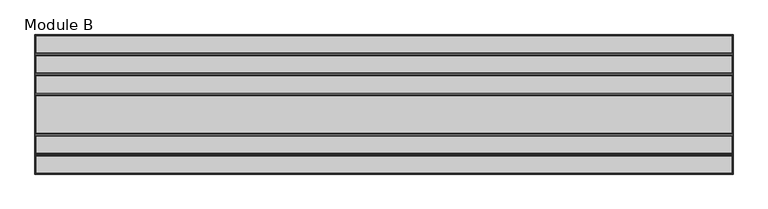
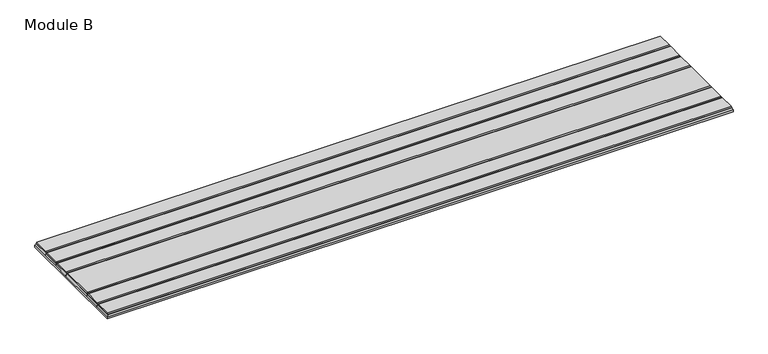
"""IFC4 building model written with IfcOpenShell, lengths in millimetres: proxy geometry, FilzFelt_Gap : Module B."""

import ifcopenshell
import ifcopenshell.guid

model = None  # the IFC model being written
_history = None  # IfcOwnerHistory: only IFC2X3 demands one
_inside = {}  # id of a spatial element -> (the spatial element, [elements in it])
_under = {}  # id of a project, library or spatial element -> (it, [spatial elements below it])
_declared = {}  # id of a project -> (the project, [libraries it declares])
_typed = {}  # id of a type object -> (the type object, [elements of that type])
_made_of = {}  # id of a material, layer set ... -> (it, [elements and type objects made of it])


def new_model(schema):
    """Start an empty IFC model of exactly this schema.

    Asked for "IFC4X3", IfcOpenShell would pick the latest addendum, in which some entities
    have other attributes; the version numbers below select the first issue.
    IFC2X3 requires an IfcOwnerHistory on every rooted entity: one is made here for all.
    """
    global model, _history
    if schema == "IFC4X3":
        model = ifcopenshell.file(schema_version=(4, 3, 0, 0))
    else:
        model = ifcopenshell.file(schema=schema)
    _inside.clear()
    _under.clear()
    _declared.clear()
    _typed.clear()
    _made_of.clear()
    _history = None
    if model.schema == "IFC2X3":
        org = make("IfcOrganization", Name="unknown")
        user = make(
            "IfcPersonAndOrganization",
            ThePerson=make("IfcPerson", FamilyName="unknown"),
            TheOrganization=org,
        )
        app = make(
            "IfcApplication",
            ApplicationDeveloper=org,
            Version="unknown",
            ApplicationFullName="unknown",
            ApplicationIdentifier="unknown",
        )
        _history = make(
            "IfcOwnerHistory",
            OwningUser=user,
            OwningApplication=app,
            ChangeAction="ADDED",
            CreationDate=0,
        )
    return model


def make(cls, **values):
    """One entity of the class cls with the attributes given. An attribute that is None is left unset."""
    return model.create_entity(
        cls, **{name: value for name, value in values.items() if value is not None}
    )


def rooted(cls, **values):
    """An entity with a GlobalId (a new one), such as an element, a storey or a relation."""
    return make(cls, GlobalId=ifcopenshell.guid.new(), OwnerHistory=_history, **values)


def si_unit(unit_type, name, prefix=None):
    """IfcSIUnit, for example si_unit("LENGTHUNIT", "METRE", prefix="MILLI")."""
    return make("IfcSIUnit", UnitType=unit_type, Prefix=prefix, Name=name)


def assignment(units):
    """IfcUnitAssignment: the units of a project."""
    return None if units is None else make("IfcUnitAssignment", Units=units)


def point(xyz):
    """IfcCartesianPoint."""
    return None if xyz is None else make("IfcCartesianPoint", Coordinates=xyz)


def direction(xyz):
    """IfcDirection."""
    return None if xyz is None else make("IfcDirection", DirectionRatios=xyz)


def frame(location, z_axis=None, x_axis=None):
    """IfcAxis2Placement3D, a coordinate frame: its origin and axes. An axis left out is left unset."""
    return make(
        "IfcAxis2Placement3D",
        Location=point(location),
        Axis=direction(z_axis),
        RefDirection=direction(x_axis),
    )


def origin():
    """The frame at (0, 0, 0) with its axes left unset."""
    return frame((0.0, 0.0, 0.0))


def place(relative_to, where):
    """IfcLocalPlacement: puts the frame where relative to a parent placement (None: the world)."""
    return make(
        "IfcLocalPlacement", PlacementRelTo=relative_to, RelativePlacement=where
    )


def context(
    kind, dimensions, precision=None, world=None, true_north=None, identifier=None
):
    """IfcGeometricRepresentationContext, for example the 3D "Model" context."""
    return make(
        "IfcGeometricRepresentationContext",
        ContextIdentifier=identifier,
        ContextType=kind,
        CoordinateSpaceDimension=dimensions,
        Precision=precision,
        WorldCoordinateSystem=world,
        TrueNorth=true_north,
    )


def project(units=None, contexts=None):
    """IfcProject with its units and contexts."""
    return rooted(
        "IfcProject",
        Name="project",
        RepresentationContexts=contexts,
        UnitsInContext=assignment(units),
    )


def spatial(cls, under=None, at=None, **own):
    """A site, building, storey or space (cls), placed at a placement, below another one or the project."""
    s = rooted(cls, ObjectPlacement=at, **own)
    if under is not None:
        _under.setdefault(under.id(), (under, []))[1].append(s)
    return s


def faces_of(points, faces, orient=None, outer=None):
    """IfcFace entities. A face is a list of loops; a loop is a list of indices into points, from 0.

    orient and outer hold one flag for each loop. By default every Orientation is true, the
    first loop of a face is its IfcFaceOuterBound and the others are IfcFaceBound.
    """
    made = []
    for i, loops in enumerate(faces):
        bounds = []
        for j, loop in enumerate(loops):
            is_outer = j == 0 if outer is None else outer[i][j]
            bounds.append(
                make(
                    "IfcFaceOuterBound" if is_outer else "IfcFaceBound",
                    Bound=make("IfcPolyLoop", Polygon=[points[k] for k in loop]),
                    Orientation=True if orient is None else orient[i][j],
                )
            )
        made.append(make("IfcFace", Bounds=bounds))
    return made


def faceted_brep(points, faces, orient=None, outer=None, voids=None):
    """IfcFacetedBrep: a solid bounded by flat faces; with voids (closed shells), ...WithVoids."""
    shared = [point(p) for p in points]
    hull = make("IfcClosedShell", CfsFaces=faces_of(shared, faces, orient, outer))
    if voids is None:
        return make("IfcFacetedBrep", Outer=hull)
    return make(
        "IfcFacetedBrepWithVoids",
        Outer=hull,
        Voids=[
            make(cls, CfsFaces=faces_of(shared, fs, o, b)) for cls, fs, o, b in voids
        ],
    )


def shape(context_of_items, identifier, shape_type, items):
    """IfcShapeRepresentation: the items that make up one representation, for example the "Body"."""
    return make(
        "IfcShapeRepresentation",
        ContextOfItems=context_of_items,
        RepresentationIdentifier=identifier,
        RepresentationType=shape_type,
        Items=items,
    )


def source(mapping_origin, context_of_items, identifier, shape_type, items):
    """IfcRepresentationMap: a shape defined once, which mapped items show again and again."""
    return make(
        "IfcRepresentationMap",
        MappingOrigin=mapping_origin,
        MappedRepresentation=shape(context_of_items, identifier, shape_type, items),
    )


def transform(
    local_origin,
    x_axis=None,
    y_axis=None,
    z_axis=None,
    scale=None,
    scale2=None,
    scale3=None,
    uniform=True,
):
    """IfcCartesianTransformationOperator3D, or its non-uniform kind. x_axis, y_axis, z_axis: its Axis1, 2, 3."""
    if uniform:
        return make(
            "IfcCartesianTransformationOperator3D",
            Axis1=direction(x_axis),
            Axis2=direction(y_axis),
            LocalOrigin=point(local_origin),
            Scale=scale,
            Axis3=direction(z_axis),
        )
    return make(
        "IfcCartesianTransformationOperator3DnonUniform",
        Axis1=direction(x_axis),
        Axis2=direction(y_axis),
        LocalOrigin=point(local_origin),
        Scale=scale,
        Axis3=direction(z_axis),
        Scale2=scale2,
        Scale3=scale3,
    )


def mapped(mapping_source, mapping_target):
    """IfcMappedItem: shows the shape of a source again, moved by a transform."""
    return make(
        "IfcMappedItem", MappingSource=mapping_source, MappingTarget=mapping_target
    )


def made_of(thing, what):
    """Note that an element or type object is made of a material, layer set ...; save() writes the relation."""
    if what is not None:
        _made_of.setdefault(what.id(), (what, []))[1].append(thing)
    return thing


def element(
    cls,
    number,
    at=None,
    inside=None,
    cuts=None,
    type_object=None,
    material=None,
    context=None,
    identifier="Body",
    shape_type=None,
    held_by="IfcProductDefinitionShape",
    body=None,
    shapes=None,
    **own,
):
    """One element of the class cls, such as IfcWall. Its Tag is "e" and its number.

    at: its placement. inside: the storey or other place that contains it. cuts: it is an
    opening in that element (IfcRelVoidsElement). A single representation is given by context,
    identifier, shape_type and body (its items); several are given by shapes. held_by: the class
    of the entity that holds the representations. save() writes the other relations.
    """
    e = rooted(cls, Tag="e%d" % number, ObjectPlacement=at, **own)
    if body is not None:
        shapes = [shape(context, identifier, shape_type, body)]
    if shapes is not None:
        e.Representation = make(held_by, Representations=shapes)
    if inside is not None:
        _inside.setdefault(inside.id(), (inside, []))[1].append(e)
    if cuts is not None:
        rooted(
            "IfcRelVoidsElement", RelatingBuildingElement=cuts, RelatedOpeningElement=e
        )
    if type_object is not None:
        _typed.setdefault(type_object.id(), (type_object, []))[1].append(e)
    return made_of(e, material)


def aggregate(whole, parts):
    """IfcRelAggregates: a whole, such as a stair, and the parts it consists of."""
    return rooted("IfcRelAggregates", RelatingObject=whole, RelatedObjects=parts)


def save(model, path):
    """Write the relations noted so far, then the file.

    IfcRelAggregates (storeys below a building ...), IfcRelContainedInSpatialStructure (elements
    in a storey), IfcRelDefinesByType, IfcRelAssociatesMaterial and IfcRelDeclares: one each for
    every whole, place, type object, material and project.
    """
    for whole, parts in _under.values():
        aggregate(whole, parts)
    for where, things in _inside.values():
        rooted(
            "IfcRelContainedInSpatialStructure",
            RelatedElements=things,
            RelatingStructure=where,
        )
    for kind, things in _typed.values():
        rooted("IfcRelDefinesByType", RelatedObjects=things, RelatingType=kind)
    for what, things in _made_of.values():
        rooted("IfcRelAssociatesMaterial", RelatedObjects=things, RelatingMaterial=what)
    for by, libraries in _declared.values():
        rooted("IfcRelDeclares", RelatingContext=by, RelatedDefinitions=libraries)
    model.write(path)


def module_b_1bbdab97(model_context):
    return source(origin(), model_context, "Body", "Brep", [
        faceted_brep([(-760.095, -150.495, 9.525), (760.095, -150.495, 9.525), (760.095, -110.7621429, 9.525), (-760.095, -110.7621429, 9.525), (760.095, 150.495, 9.525), (-760.095, 150.495, 9.525), (-760.095, 110.7621429, 9.525), (760.095, 110.7621429, 9.525), (760.095, 67.2192857, 9.525), (760.095, 106.9521429, 9.525), (-760.095, 106.9521429, 9.525), (-760.095, 67.2192857, 9.525), (760.095, 23.6764286, 9.525), (760.095, 63.4092857, 9.525), (-760.095, 63.4092857, 9.525), (-760.095, 23.6764286, 9.525), (760.095, -63.4092857, 9.525), (760.095, 19.8664286, 9.525), (-760.095, 19.8664286, 9.525), (-760.095, -63.4092857, 9.525), (760.095, -106.9521429, 9.525), (760.095, -67.2192857, 9.525), (-760.095, -67.2192857, 9.525), (-760.095, -106.9521429, 9.525), (762.0, 152.4, 0.0), (762.0, -152.4, 0.0), (-762.0, -152.4, 0.0), (-762.0, 152.4, 0.0), (-762.0, 152.4, 4.7625), (762.0, 152.4, 4.7625), (-762.0, -152.4, 4.7625), (-762.0, -108.8571429, 4.7625), (-762.0, -65.3142857, 4.7625), (-762.0, 21.7714286, 4.7625), (-762.0, 65.3142857, 4.7625), (-762.0, 108.8571429, 4.7625), (762.0, -152.4, 4.7625), (762.0, 108.8571429, 4.7625), (762.0, 65.3142857, 4.7625), (762.0, 21.7714286, 4.7625), (762.0, -65.3142857, 4.7625), (762.0, -108.8571429, 4.7625)], [[[0, 1, 2, 3]], [[4, 5, 6, 7]], [[8, 9, 10, 11]], [[12, 13, 14, 15]], [[16, 17, 18, 19]], [[20, 21, 22, 23]], [[24, 25, 26, 27]], [[24, 27, 28, 29]], [[27, 26, 30, 31, 32, 33, 34, 35, 28]], [[26, 25, 36, 30]], [[25, 24, 29, 37, 38, 39, 40, 41, 36]], [[9, 8, 38, 37]], [[13, 12, 39, 38]], [[17, 16, 40, 39]], [[21, 20, 41, 40]], [[1, 36, 41, 2]], [[29, 4, 7, 37]], [[36, 1, 0, 30]], [[11, 10, 35, 34]], [[15, 14, 34, 33]], [[19, 18, 33, 32]], [[23, 22, 32, 31]], [[30, 0, 3, 31]], [[5, 28, 35, 6]], [[28, 5, 4, 29]], [[35, 37, 7, 6]], [[37, 35, 10, 9]], [[34, 38, 8, 11]], [[38, 34, 14, 13]], [[33, 39, 12, 15]], [[39, 33, 18, 17]], [[32, 40, 16, 19]], [[40, 32, 22, 21]], [[31, 41, 20, 23]], [[41, 31, 3, 2]]]),
        faceted_brep([(760.095, -150.495, 9.525), (-760.095, -150.495, 9.525), (-760.095, -110.7621429, 9.525), (760.095, -110.7621429, 9.525), (-758.825, -149.225, 12.7), (758.825, -149.225, 12.7), (758.825, -112.0321429, 12.7), (-758.825, -112.0321429, 12.7)], [[[0, 1, 2, 3]], [[4, 5, 6, 7]], [[5, 0, 3, 6]], [[0, 5, 4, 1]], [[1, 4, 7, 2]], [[3, 2, 7, 6]]]),
        faceted_brep([(-760.095, 150.495, 9.525), (760.095, 150.495, 9.525), (760.095, 110.7621429, 9.525), (-760.095, 110.7621429, 9.525), (758.825, 149.225, 12.7), (-758.825, 149.225, 12.7), (-758.825, 112.0321429, 12.7), (758.825, 112.0321429, 12.7)], [[[0, 1, 2, 3]], [[4, 5, 6, 7]], [[1, 4, 7, 2]], [[5, 0, 3, 6]], [[0, 5, 4, 1]], [[3, 2, 7, 6]]]),
        faceted_brep([(760.095, 106.9521429, 9.525), (760.095, 67.2192857, 9.525), (-760.095, 67.2192857, 9.525), (-760.095, 106.9521429, 9.525), (758.825, 68.4892857, 12.7), (758.825, 105.6821429, 12.7), (-758.825, 105.6821429, 12.7), (-758.825, 68.4892857, 12.7)], [[[0, 1, 2, 3]], [[4, 5, 6, 7]], [[1, 0, 5, 4]], [[3, 2, 7, 6]], [[0, 3, 6, 5]], [[2, 1, 4, 7]]]),
        faceted_brep([(760.095, 63.4092857, 9.525), (760.095, 23.6764286, 9.525), (-760.095, 23.6764286, 9.525), (-760.095, 63.4092857, 9.525), (758.825, 24.9464286, 12.7), (758.825, 62.1392857, 12.7), (-758.825, 62.1392857, 12.7), (-758.825, 24.9464286, 12.7)], [[[0, 1, 2, 3]], [[4, 5, 6, 7]], [[1, 0, 5, 4]], [[3, 2, 7, 6]], [[0, 3, 6, 5]], [[2, 1, 4, 7]]]),
        faceted_brep([(760.095, 19.8664286, 9.525), (760.095, -63.4092857, 9.525), (-760.095, -63.4092857, 9.525), (-760.095, 19.8664286, 9.525), (758.825, -62.1392857, 12.7), (758.825, 18.5964286, 12.7), (-758.825, 18.5964286, 12.7), (-758.825, -62.1392857, 12.7)], [[[0, 1, 2, 3]], [[4, 5, 6, 7]], [[1, 0, 5, 4]], [[3, 2, 7, 6]], [[0, 3, 6, 5]], [[2, 1, 4, 7]]]),
        faceted_brep([(760.095, -67.2192857, 9.525), (760.095, -106.9521429, 9.525), (-760.095, -106.9521429, 9.525), (-760.095, -67.2192857, 9.525), (758.825, -105.6821429, 12.7), (758.825, -68.4892857, 12.7), (-758.825, -68.4892857, 12.7), (-758.825, -105.6821429, 12.7)], [[[0, 1, 2, 3]], [[4, 5, 6, 7]], [[1, 0, 5, 4]], [[3, 2, 7, 6]], [[0, 3, 6, 5]], [[2, 1, 4, 7]]]),
    ])


if __name__ == "__main__":
    model = new_model("IFC4")
    model_context = context("Model", 3, world=origin())
    ifc_project = project(units=[si_unit("LENGTHUNIT", "METRE", prefix="MILLI")], contexts=[model_context])
    site = spatial("IfcSite", under=ifc_project)
    building = spatial("IfcBuilding", under=site)
    placement = place(None, origin())
    module_b_shape = module_b_1bbdab97(model_context)
    element("IfcBuildingElementProxy", 1, Name="FilzFelt_Gap : Module B", ObjectType="FilzFelt_Gap : Module B", at=placement, inside=building, context=model_context, shape_type="MappedRepresentation", body=[
        mapped(module_b_shape, transform((0.0, 0.0, 0.0), x_axis=(1.0, 0.0, 0.0), y_axis=(0.0, 1.0, 0.0), z_axis=(0.0, 0.0, 1.0))),
    ])
    save(model, "model.ifc")
